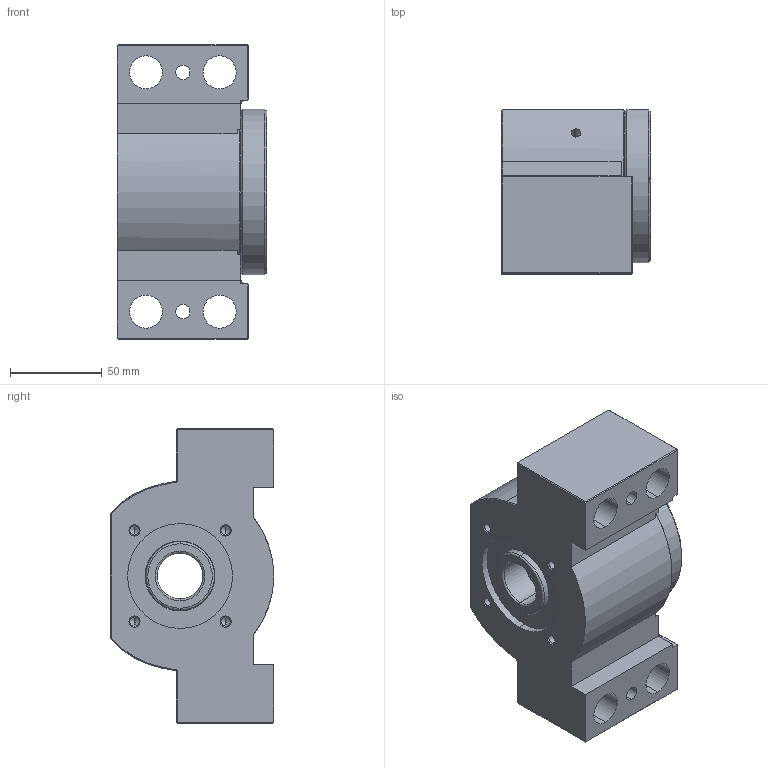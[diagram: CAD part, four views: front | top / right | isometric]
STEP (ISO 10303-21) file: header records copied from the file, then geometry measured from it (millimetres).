
FILE_DESCRIPTION (( 'STEP AP203' ), '1' );
FILE_NAME ('SBK25DFD²Õ¦X.STEP', '2010-08-13T12:09:53', ( '' ), ( '' ), 'SwSTEP 2.0', 'SolidWorks 2008', '' );
FILE_SCHEMA (( 'CONFIG_CONTROL_DESIGN' ));
Length unit declared in the file: millimetre
Products named in the file (1): SBK25DFD組合
Bounding box: 81 x 89 x 160 mm (x, y, z)
Volume: 684692.9 mm3; surface area: 166914.6 mm2
Topology: 60 solids, 60 shells, 524 faces, 1292 edges, 790 vertices
Faces by surface type: cylinder 155, cone 131, sphere 96, plane 94, torus 48
Entity records: 13838 total; most frequent: DIRECTION 2665, CARTESIAN_POINT 2437, ORIENTED_EDGE 2064, AXIS2_PLACEMENT_3D 1134, EDGE_CURVE 1032, VERTEX_POINT 646, CIRCLE 609, EDGE_LOOP 592
